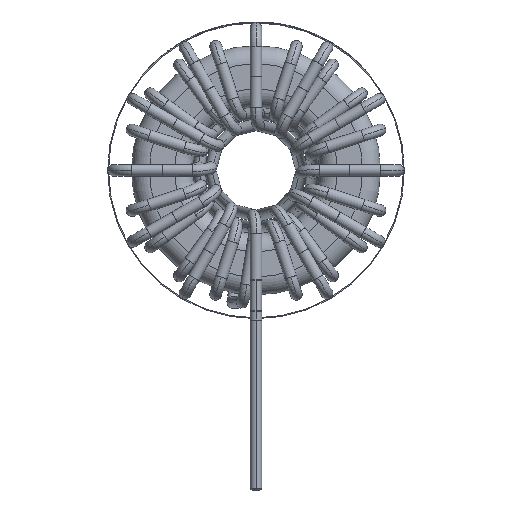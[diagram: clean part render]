
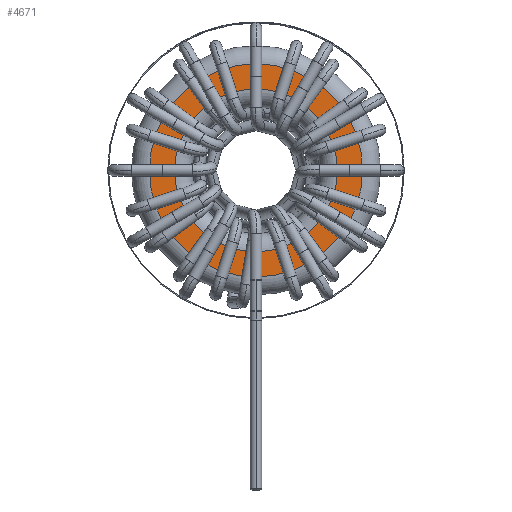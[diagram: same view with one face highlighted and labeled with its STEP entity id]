
A CAD part, front view. The second image highlights one B-rep face of the part: STEP entity #4671.
In plain terms, the highlighted planar face has unit normal (0, -1, 0).
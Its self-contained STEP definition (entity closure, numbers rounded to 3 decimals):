
#686 = CARTESIAN_POINT ( 'NONE',  ( 0., -5.995, 0. ) ) ;
#720 = DIRECTION ( 'NONE',  ( 0., -1., 0. ) ) ;
#951 = DIRECTION ( 'NONE',  ( 0., 0., 1. ) ) ;
#3236 = CIRCLE ( 'NONE', #5464, 11.85 ) ;
#3408 = EDGE_CURVE ( 'NONE', #5362, #22847, #3236, .T. ) ;
#4671 = ADVANCED_FACE ( 'NONE', ( #16159, #11124 ), #16817, .F. ) ;
#4840 = ORIENTED_EDGE ( 'NONE', *, *, #3408, .T. ) ;
#5043 = VERTEX_POINT ( 'NONE', #9384 ) ;
#5362 = VERTEX_POINT ( 'NONE', #33238 ) ;
#5464 = AXIS2_PLACEMENT_3D ( 'NONE', #33201, #9423, #951 ) ;
#5825 = AXIS2_PLACEMENT_3D ( 'NONE', #14751, #33488, #20049 ) ;
#7000 = DIRECTION ( 'NONE',  ( 0., 1., 0. ) ) ;
#8306 = DIRECTION ( 'NONE',  ( 0., 0., 1. ) ) ;
#8889 = AXIS2_PLACEMENT_3D ( 'NONE', #686, #24466, #8306 ) ;
#9193 = EDGE_CURVE ( 'NONE', #31055, #5043, #21908, .T. ) ;
#9384 = CARTESIAN_POINT ( 'NONE',  ( 0., -5.995, 9.05 ) ) ;
#9423 = DIRECTION ( 'NONE',  ( 0., -1., 0. ) ) ;
#9602 = CARTESIAN_POINT ( 'NONE',  ( 0., -5.995, 0. ) ) ;
#9761 = ORIENTED_EDGE ( 'NONE', *, *, #22616, .T. ) ;
#10880 = CARTESIAN_POINT ( 'NONE',  ( 0., -5.995, -9.05 ) ) ;
#11124 = FACE_OUTER_BOUND ( 'NONE', #24204, .T. ) ;
#14565 = CIRCLE ( 'NONE', #33949, 9.05 ) ;
#14751 = CARTESIAN_POINT ( 'NONE',  ( 0., -5.995, 0. ) ) ;
#14904 = ORIENTED_EDGE ( 'NONE', *, *, #30262, .T. ) ;
#15371 = CARTESIAN_POINT ( 'NONE',  ( 0., -5.995, -11.85 ) ) ;
#16159 = FACE_BOUND ( 'NONE', #29031, .T. ) ;
#16817 = PLANE ( 'NONE',  #8889 ) ;
#19149 = AXIS2_PLACEMENT_3D ( 'NONE', #27702, #720, #19575 ) ;
#19575 = DIRECTION ( 'NONE',  ( 0., 0., 1. ) ) ;
#20049 = DIRECTION ( 'NONE',  ( 0., 0., 1. ) ) ;
#21908 = CIRCLE ( 'NONE', #5825, 9.05 ) ;
#22616 = EDGE_CURVE ( 'NONE', #5043, #31055, #14565, .T. ) ;
#22847 = VERTEX_POINT ( 'NONE', #15371 ) ;
#22891 = CIRCLE ( 'NONE', #19149, 11.85 ) ;
#24204 = EDGE_LOOP ( 'NONE', ( #4840, #14904 ) ) ;
#24466 = DIRECTION ( 'NONE',  ( 0., 1., 0. ) ) ;
#25352 = ORIENTED_EDGE ( 'NONE', *, *, #9193, .T. ) ;
#27702 = CARTESIAN_POINT ( 'NONE',  ( 0., -5.995, 0. ) ) ;
#29031 = EDGE_LOOP ( 'NONE', ( #9761, #25352 ) ) ;
#30262 = EDGE_CURVE ( 'NONE', #22847, #5362, #22891, .T. ) ;
#31055 = VERTEX_POINT ( 'NONE', #10880 ) ;
#33201 = CARTESIAN_POINT ( 'NONE',  ( 0., -5.995, 0. ) ) ;
#33238 = CARTESIAN_POINT ( 'NONE',  ( 0., -5.995, 11.85 ) ) ;
#33488 = DIRECTION ( 'NONE',  ( 0., 1., 0. ) ) ;
#33627 = DIRECTION ( 'NONE',  ( 0., 0., 1. ) ) ;
#33949 = AXIS2_PLACEMENT_3D ( 'NONE', #9602, #7000, #33627 ) ;
